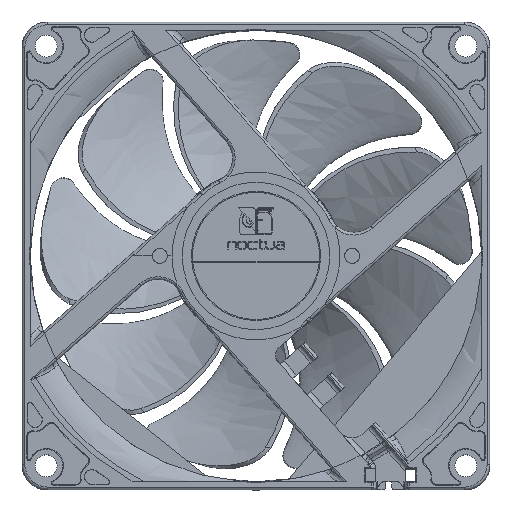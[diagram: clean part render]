
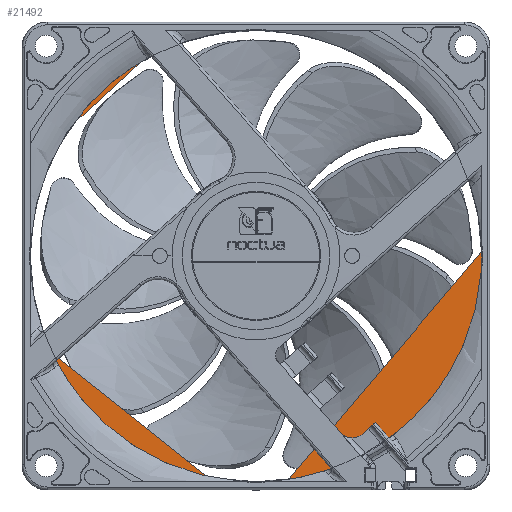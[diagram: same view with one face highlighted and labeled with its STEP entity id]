
A CAD part, top view. The second image highlights one B-rep face of the part: STEP entity #21492.
In plain terms, the highlighted planar face has unit normal (0, 0, 1).
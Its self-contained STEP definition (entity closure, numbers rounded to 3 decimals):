
#844=B_SPLINE_CURVE_WITH_KNOTS('',3,(#29304,#29305,#29306,#29307),
 .UNSPECIFIED.,.F.,.F.,(4,4),(0.,0.006),
 .UNSPECIFIED.);
#845=B_SPLINE_CURVE_WITH_KNOTS('',3,(#29315,#29316,#29317,#29318),
 .UNSPECIFIED.,.F.,.F.,(4,4),(0.,0.006),
 .UNSPECIFIED.);
#846=B_SPLINE_CURVE_WITH_KNOTS('',3,(#29328,#29329,#29330,#29331),
 .UNSPECIFIED.,.F.,.F.,(4,4),(0.,0.006),
 .UNSPECIFIED.);
#847=B_SPLINE_CURVE_WITH_KNOTS('',3,(#29339,#29340,#29341,#29342),
 .UNSPECIFIED.,.F.,.F.,(4,4),(0.,0.006),
 .UNSPECIFIED.);
#2456=CIRCLE('',#23021,44.383);
#2457=CIRCLE('',#23023,44.383);
#2458=CIRCLE('',#23025,44.383);
#2459=CIRCLE('',#23027,44.383);
#2460=CIRCLE('',#23029,44.383);
#2461=CIRCLE('',#23031,44.383);
#2462=CIRCLE('',#23033,44.383);
#2641=CIRCLE('',#23764,44.383);
#2645=CIRCLE('',#23775,44.383);
#2657=CIRCLE('',#23803,44.383);
#2769=CIRCLE('',#24148,44.378);
#7545=ORIENTED_EDGE('',*,*,#9603,.F.);
#7546=ORIENTED_EDGE('',*,*,#9556,.T.);
#7547=ORIENTED_EDGE('',*,*,#11489,.F.);
#7548=ORIENTED_EDGE('',*,*,#9563,.T.);
#7549=ORIENTED_EDGE('',*,*,#9605,.F.);
#7550=ORIENTED_EDGE('',*,*,#9568,.T.);
#7551=ORIENTED_EDGE('',*,*,#9608,.F.);
#7552=ORIENTED_EDGE('',*,*,#9579,.T.);
#7553=ORIENTED_EDGE('',*,*,#11433,.T.);
#7554=ORIENTED_EDGE('',*,*,#9586,.T.);
#7555=ORIENTED_EDGE('',*,*,#9610,.F.);
#7556=ORIENTED_EDGE('',*,*,#9591,.T.);
#7557=ORIENTED_EDGE('',*,*,#11891,.T.);
#7558=ORIENTED_EDGE('',*,*,#11417,.F.);
#7559=ORIENTED_EDGE('',*,*,#9598,.T.);
#9556=EDGE_CURVE('',#12877,#12878,#2456,.F.);
#9563=EDGE_CURVE('',#12884,#12885,#2457,.F.);
#9568=EDGE_CURVE('',#12889,#12890,#2458,.F.);
#9579=EDGE_CURVE('',#12900,#12901,#2459,.F.);
#9586=EDGE_CURVE('',#12907,#12908,#2460,.F.);
#9591=EDGE_CURVE('',#12912,#12913,#2461,.F.);
#9598=EDGE_CURVE('',#12919,#12920,#2462,.F.);
#9603=EDGE_CURVE('',#12877,#12920,#844,.T.);
#9605=EDGE_CURVE('',#12889,#12885,#845,.T.);
#9608=EDGE_CURVE('',#12900,#12890,#846,.T.);
#9610=EDGE_CURVE('',#12912,#12908,#847,.T.);
#11417=EDGE_CURVE('',#12919,#12913,#2641,.T.);
#11433=EDGE_CURVE('',#12901,#12907,#2645,.F.);
#11489=EDGE_CURVE('',#12884,#12878,#2657,.T.);
#11891=EDGE_CURVE('',#12913,#12913,#2769,.T.);
#12877=VERTEX_POINT('',#28982);
#12878=VERTEX_POINT('',#28983);
#12884=VERTEX_POINT('',#29028);
#12885=VERTEX_POINT('',#29029);
#12889=VERTEX_POINT('',#29062);
#12890=VERTEX_POINT('',#29063);
#12900=VERTEX_POINT('',#29140);
#12901=VERTEX_POINT('',#29141);
#12907=VERTEX_POINT('',#29186);
#12908=VERTEX_POINT('',#29187);
#12912=VERTEX_POINT('',#29220);
#12913=VERTEX_POINT('',#29221);
#12919=VERTEX_POINT('',#29266);
#12920=VERTEX_POINT('',#29267);
#18484=EDGE_LOOP('',(#7545,#7546,#7547,#7548,#7549,#7550,#7551,#7552,#7553,
#7554,#7555,#7556,#7557,#7558,#7559));
#19792=FACE_BOUND('',#18484,.T.);
#20515=PLANE('',#24147);
#21492=ADVANCED_FACE('',(#19792),#20515,.F.);
#23021=AXIS2_PLACEMENT_3D('',#28981,#24589,#24590);
#23023=AXIS2_PLACEMENT_3D('',#29027,#24593,#24594);
#23025=AXIS2_PLACEMENT_3D('',#29061,#24597,#24598);
#23027=AXIS2_PLACEMENT_3D('',#29139,#24601,#24602);
#23029=AXIS2_PLACEMENT_3D('',#29185,#24605,#24606);
#23031=AXIS2_PLACEMENT_3D('',#29219,#24609,#24610);
#23033=AXIS2_PLACEMENT_3D('',#29265,#24613,#24614);
#23764=AXIS2_PLACEMENT_3D('',#38499,#26764,#26765);
#23775=AXIS2_PLACEMENT_3D('',#38551,#26791,#26792);
#23803=AXIS2_PLACEMENT_3D('',#39166,#26865,#26866);
#24147=AXIS2_PLACEMENT_3D('',#41044,#27743,#27744);
#24148=AXIS2_PLACEMENT_3D('',#41045,#27745,#27746);
#24589=DIRECTION('',(0.,0.,-1.));
#24590=DIRECTION('',(-1.,0.,0.));
#24593=DIRECTION('',(0.,0.,-1.));
#24594=DIRECTION('',(-1.,0.,0.));
#24597=DIRECTION('',(0.,0.,-1.));
#24598=DIRECTION('',(-1.,0.,0.));
#24601=DIRECTION('',(0.,0.,-1.));
#24602=DIRECTION('',(-1.,0.,0.));
#24605=DIRECTION('',(0.,0.,-1.));
#24606=DIRECTION('',(-1.,0.,0.));
#24609=DIRECTION('',(0.,0.,-1.));
#24610=DIRECTION('',(-1.,0.,0.));
#24613=DIRECTION('',(0.,0.,-1.));
#24614=DIRECTION('',(-1.,0.,0.));
#26764=DIRECTION('',(0.,0.,-1.));
#26765=DIRECTION('',(-1.,0.,0.));
#26791=DIRECTION('',(0.,0.,-1.));
#26792=DIRECTION('',(-1.,0.,0.));
#26865=DIRECTION('',(0.,0.,-1.));
#26866=DIRECTION('',(-1.,0.,0.));
#27743=DIRECTION('',(0.,0.,-1.));
#27744=DIRECTION('',(-1.,0.,0.));
#27745=DIRECTION('',(0.,0.,-1.));
#27746=DIRECTION('',(1.,0.,0.));
#28981=CARTESIAN_POINT('',(0.,-126.929,0.049));
#28982=CARTESIAN_POINT('',(-3.016,-82.648,0.049));
#28983=CARTESIAN_POINT('',(-19.16,-86.894,0.049));
#29027=CARTESIAN_POINT('',(0.,-126.929,0.049));
#29028=CARTESIAN_POINT('',(-20.607,-87.62,0.049));
#29029=CARTESIAN_POINT('',(-44.28,-123.913,0.049));
#29061=CARTESIAN_POINT('',(0.,-126.929,0.049));
#29062=CARTESIAN_POINT('',(-44.28,-129.945,0.049));
#29063=CARTESIAN_POINT('',(-3.016,-171.209,0.049));
#29139=CARTESIAN_POINT('',(0.,-126.929,0.049));
#29140=CARTESIAN_POINT('',(3.016,-171.209,0.049));
#29141=CARTESIAN_POINT('',(19.16,-166.963,0.049));
#29185=CARTESIAN_POINT('',(0.,-126.929,0.049));
#29186=CARTESIAN_POINT('',(26.2,-162.754,0.049));
#29187=CARTESIAN_POINT('',(44.28,-129.945,0.049));
#29219=CARTESIAN_POINT('',(0.,-126.929,0.049));
#29220=CARTESIAN_POINT('',(44.28,-123.913,0.049));
#29221=CARTESIAN_POINT('',(40.032,-107.775,0.049));
#29265=CARTESIAN_POINT('',(0.,-126.929,0.049));
#29266=CARTESIAN_POINT('',(39.309,-106.321,0.049));
#29267=CARTESIAN_POINT('',(3.016,-82.648,0.049));
#29304=CARTESIAN_POINT('',(-3.016,-82.648,0.049));
#29305=CARTESIAN_POINT('',(-1.021,-82.287,0.049));
#29306=CARTESIAN_POINT('',(1.021,-82.287,0.049));
#29307=CARTESIAN_POINT('',(3.016,-82.648,0.049));
#29315=CARTESIAN_POINT('',(-44.28,-129.945,0.049));
#29316=CARTESIAN_POINT('',(-44.641,-127.95,0.049));
#29317=CARTESIAN_POINT('',(-44.641,-125.907,0.049));
#29318=CARTESIAN_POINT('',(-44.28,-123.913,0.049));
#29328=CARTESIAN_POINT('',(3.016,-171.209,0.049));
#29329=CARTESIAN_POINT('',(1.021,-171.57,0.049));
#29330=CARTESIAN_POINT('',(-1.021,-171.57,0.049));
#29331=CARTESIAN_POINT('',(-3.016,-171.209,0.049));
#29339=CARTESIAN_POINT('',(44.28,-123.913,0.049));
#29340=CARTESIAN_POINT('',(44.641,-125.908,0.049));
#29341=CARTESIAN_POINT('',(44.641,-127.95,0.049));
#29342=CARTESIAN_POINT('',(44.28,-129.945,0.049));
#38499=CARTESIAN_POINT('',(0.,-126.929,0.049));
#38551=CARTESIAN_POINT('',(0.,-126.929,0.049));
#39166=CARTESIAN_POINT('',(0.,-126.929,0.049));
#41044=CARTESIAN_POINT('',(0.,-126.929,0.049));
#41045=CARTESIAN_POINT('',(0.,-126.929,0.049));
